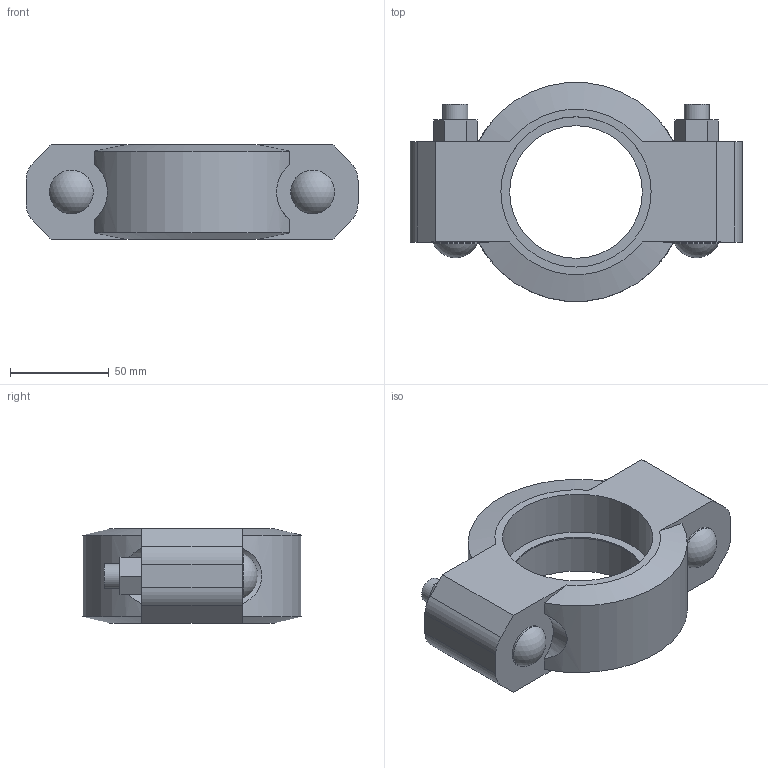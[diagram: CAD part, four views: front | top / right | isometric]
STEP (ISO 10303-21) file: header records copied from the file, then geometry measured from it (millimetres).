
FILE_DESCRIPTION(/* description */ ('Victaulic Standard Flexible Coupling Style 77','CAx-IF Rec.Pracs.---Representation and Presentation of Product Manufacturing Information (PMI)---4.0---2014-10-13'),/* implementation_level */ '2;1');
FILE_NAME(/* name */ 'C:\Users\Vjadhav\Desktop\CAD for Inventor\1\Coupling bolt thickness\77\Victaulic_IPS_Coupling Flexible_Style 77 (OGS)\Victaulic_IPS_Coupling Flexible_Style 77 (OGS)_02.5 (76.1) (65).stp',/* time_stamp */ '2022-03-24T18:20:03+06:00',/* author */ ('CONSTRUCTION PIPING SERVICES'),/* organization */ ('Victaulic'),/* preprocessor_version */ 'ST-DEVELOPER v17.2',/* originating_system */ 'Autodesk Inventor 2019',/* authorisation */ '');
FILE_SCHEMA (('AP242_MANAGED_MODEL_BASED_3D_ENGINEERING_MIM_LF { 1 0 10303 442 1 1 4 }'));
Length unit declared in the file: inch
Products named in the file (1): 077-02.5 (76.1)
Bounding box: 168.4 x 110.86 x 47.75 mm (x, y, z)
Volume: 375527.4 mm3; surface area: 61430.2 mm2
Topology: 1 solids, 3 shells, 61 faces, 142 edges, 95 vertices
Faces by surface type: plane 34, cylinder 21, cone 4, sphere 2
Full cylindrical faces by diameter (mm): 12.7 x4, 14.605 x2, 22.225 x2, 67.31 x1, 76.2 x2
Entity records: 2059 total; most frequent: CARTESIAN_POINT 432, DIRECTION 323, ORIENTED_EDGE 284, EDGE_CURVE 142, AXIS2_PLACEMENT_3D 118, VERTEX_POINT 95, LINE 87, VECTOR 87
